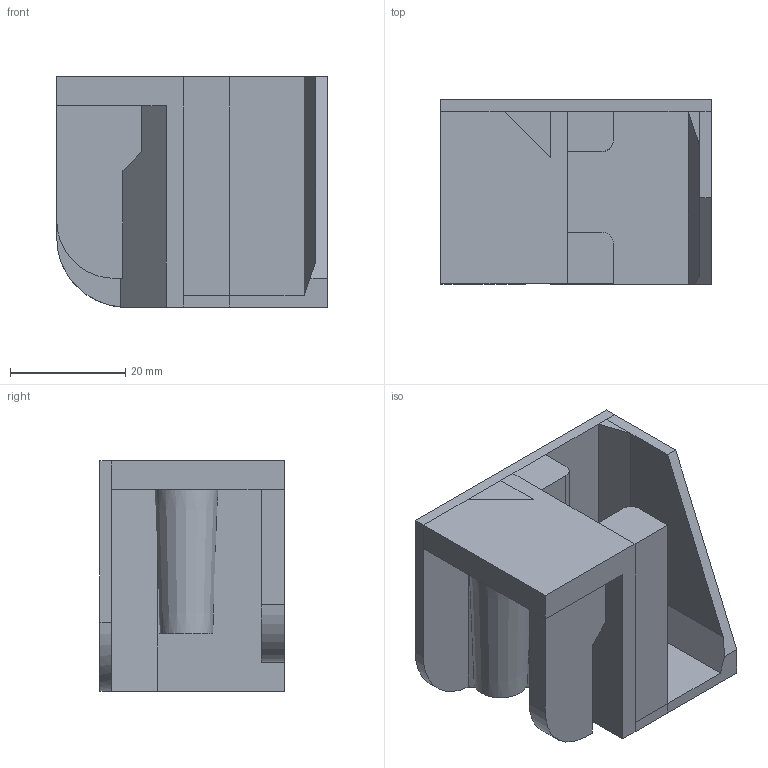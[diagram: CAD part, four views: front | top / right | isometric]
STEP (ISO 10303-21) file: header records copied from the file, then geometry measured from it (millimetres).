
FILE_DESCRIPTION(('FreeCAD Model'),'2;1');
FILE_NAME('Open CASCADE Shape Model','2023-07-25T19:23:21',(''),(''), 'Open CASCADE STEP processor 7.6','FreeCAD','Unknown');
FILE_SCHEMA(('AUTOMOTIVE_DESIGN { 1 0 10303 214 1 1 1 1 }'));
Length unit declared in the file: millimetre
Products named in the file (1): Arbeitshaken
Bounding box: 47 x 32 x 40 mm (x, y, z)
Volume: 23145.5 mm3; surface area: 12955.9 mm2
Topology: 1 solids, 1 shells, 51 faces, 131 edges, 83 vertices
Faces by surface type: plane 46, cylinder 4, cone 1
Entity records: 1535 total; most frequent: CARTESIAN_POINT 267, ORIENTED_EDGE 262, DIRECTION 247, EDGE_CURVE 131, LINE 117, VECTOR 117, VERTEX_POINT 83, AXIS2_PLACEMENT_3D 65
